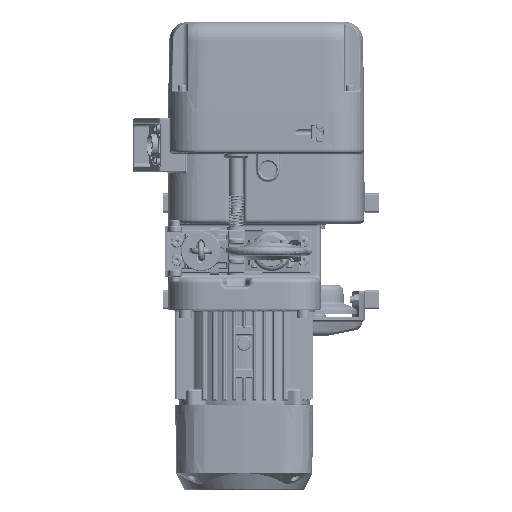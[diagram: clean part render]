
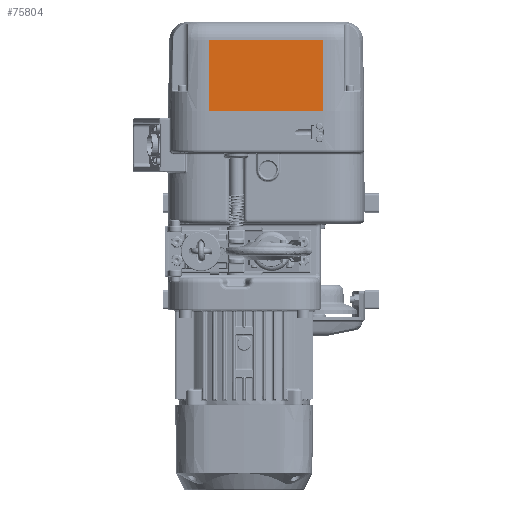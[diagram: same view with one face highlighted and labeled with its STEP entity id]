
A CAD part, front view. The second image highlights one B-rep face of the part: STEP entity #75804.
In plain terms, the highlighted planar face has unit normal (0, -1, 0.018).
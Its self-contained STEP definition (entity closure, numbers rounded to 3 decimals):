
#964 = EDGE_LOOP ( 'NONE', ( #39667, #9342, #123805, #182127 ) ) ;
#4687 = EDGE_CURVE ( 'NONE', #107706, #108147, #23303, .T. ) ;
#9342 = ORIENTED_EDGE ( 'NONE', *, *, #22399, .T. ) ;
#10492 = CARTESIAN_POINT ( 'NONE',  ( 0., -105.5, 0. ) ) ;
#22399 = EDGE_CURVE ( 'NONE', #146015, #102461, #102521, .T. ) ;
#23303 = LINE ( 'NONE', #106516, #186576 ) ;
#24737 = CARTESIAN_POINT ( 'NONE',  ( -71.394, -103.939, 89.401 ) ) ;
#39667 = ORIENTED_EDGE ( 'NONE', *, *, #124588, .F. ) ;
#44271 = DIRECTION ( 'NONE',  ( 0., -1., 0.017 ) ) ;
#51904 = DIRECTION ( 'NONE',  ( -1., 0., 0. ) ) ;
#58884 = EDGE_CURVE ( 'NONE', #102461, #108147, #191538, .T. ) ;
#60023 = FACE_OUTER_BOUND ( 'NONE', #964, .T. ) ;
#63324 = PLANE ( 'NONE',  #120873 ) ;
#64019 = LINE ( 'NONE', #132582, #203468 ) ;
#69856 = CARTESIAN_POINT ( 'NONE',  ( 0., -103.939, 89.401 ) ) ;
#75804 = ADVANCED_FACE ( 'NONE', ( #60023 ), #63324, .T. ) ;
#86436 = DIRECTION ( 'NONE',  ( 0., -0.017, -1. ) ) ;
#102461 = VERTEX_POINT ( 'NONE', #24737 ) ;
#102521 = LINE ( 'NONE', #69856, #213826 ) ;
#103911 = CARTESIAN_POINT ( 'NONE',  ( -71.394, -105.5, 0. ) ) ;
#106516 = CARTESIAN_POINT ( 'NONE',  ( 0., -105.5, 0. ) ) ;
#107706 = VERTEX_POINT ( 'NONE', #199185 ) ;
#108147 = VERTEX_POINT ( 'NONE', #172671 ) ;
#120873 = AXIS2_PLACEMENT_3D ( 'NONE', #10492, #44271, #180277 ) ;
#122249 = DIRECTION ( 'NONE',  ( -1., 0., 0. ) ) ;
#123805 = ORIENTED_EDGE ( 'NONE', *, *, #58884, .T. ) ;
#124588 = EDGE_CURVE ( 'NONE', #146015, #107706, #64019, .T. ) ;
#132582 = CARTESIAN_POINT ( 'NONE',  ( 71.394, -105.5, 0. ) ) ;
#146015 = VERTEX_POINT ( 'NONE', #165769 ) ;
#165769 = CARTESIAN_POINT ( 'NONE',  ( 71.394, -103.939, 89.401 ) ) ;
#172671 = CARTESIAN_POINT ( 'NONE',  ( -71.394, -105.5, 0. ) ) ;
#174992 = VECTOR ( 'NONE', #188200, 1000. ) ;
#180277 = DIRECTION ( 'NONE',  ( 0., -0.017, -1. ) ) ;
#182127 = ORIENTED_EDGE ( 'NONE', *, *, #4687, .F. ) ;
#186576 = VECTOR ( 'NONE', #122249, 1000. ) ;
#188200 = DIRECTION ( 'NONE',  ( 0., -0.017, -1. ) ) ;
#191538 = LINE ( 'NONE', #103911, #174992 ) ;
#199185 = CARTESIAN_POINT ( 'NONE',  ( 71.394, -105.5, 0. ) ) ;
#203468 = VECTOR ( 'NONE', #86436, 1000. ) ;
#213826 = VECTOR ( 'NONE', #51904, 1000. ) ;
